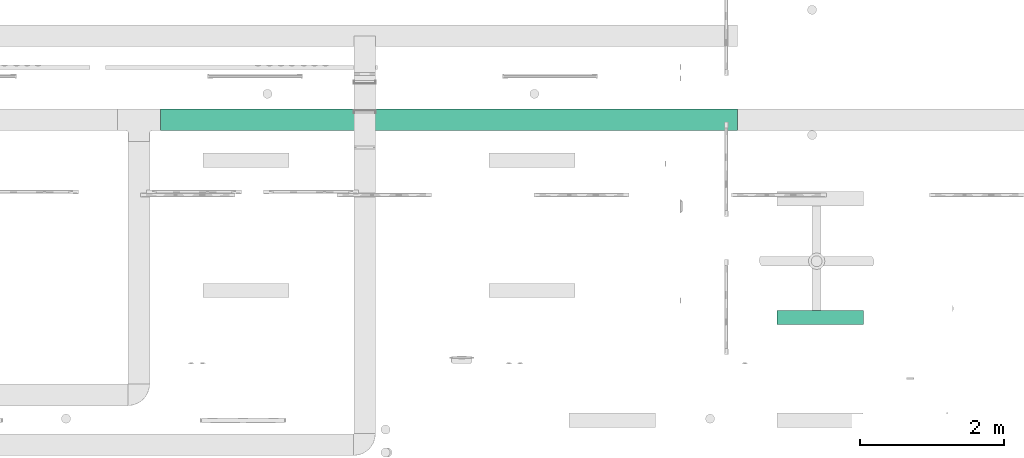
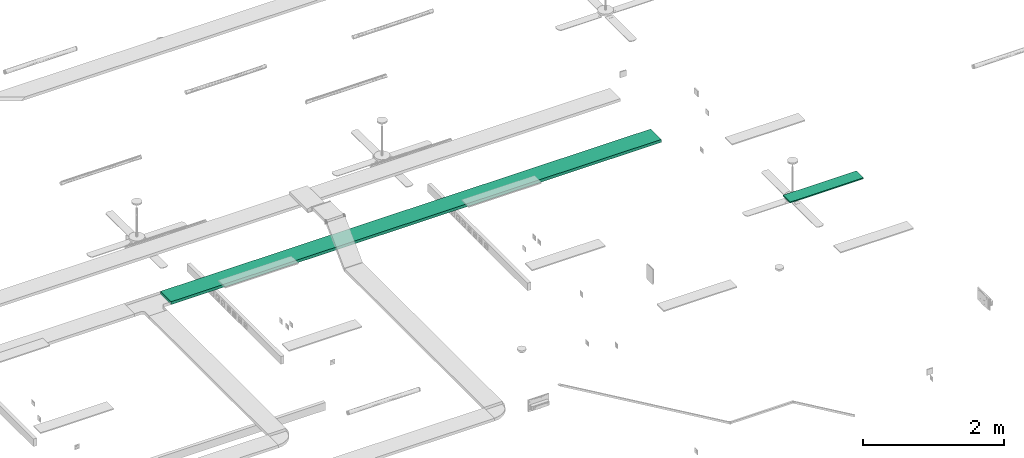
# One storey, part 22 of 153: 1 flow segment, 1 flow terminal.
"""IFC2X3 building model written with IfcOpenShell, lengths in metres."""

from ifc_helpers import new_model, entity, si_unit, converted_unit, derived_unit, direction, frame, origin, origin_2d_with_axis, place, context, subcontext, project, spatial, rectangle, extrude, source, transform, mapped, type_object, type_shapes, element, save


model = new_model("IFC2X3")

# Units and contexts
model_context = context("Model", 3, precision=1e-05, world=origin(), true_north=direction((6.12303176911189e-17, 1.0)))
body_context = subcontext(model_context, "Body", "Model", "MODEL_VIEW")
ifc_project = project(units=[si_unit("LENGTHUNIT", "METRE"), si_unit("AREAUNIT", "SQUARE_METRE"), si_unit("VOLUMEUNIT", "CUBIC_METRE"), converted_unit("PLANEANGLEUNIT", "DEGREE", entity("IfcRatioMeasure", 0.0174532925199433), si_unit("PLANEANGLEUNIT", "RADIAN"), dimensions=[0, 0, 0, 0, 0, 0, 0]), si_unit("MASSUNIT", "GRAM", prefix="KILO"), derived_unit("MASSDENSITYUNIT", [(si_unit("MASSUNIT", "GRAM", prefix="KILO"), 1), (si_unit("LENGTHUNIT", "METRE"), -3)]), si_unit("TIMEUNIT", "SECOND"), si_unit("FREQUENCYUNIT", "HERTZ"), si_unit("THERMODYNAMICTEMPERATUREUNIT", "DEGREE_CELSIUS"), derived_unit("THERMALTRANSMITTANCEUNIT", [(si_unit("MASSUNIT", "GRAM", prefix="KILO"), 1), (si_unit("THERMODYNAMICTEMPERATUREUNIT", "KELVIN"), -1), (si_unit("TIMEUNIT", "SECOND"), -3)]), derived_unit("VOLUMETRICFLOWRATEUNIT", [(si_unit("LENGTHUNIT", "METRE"), 3), (si_unit("TIMEUNIT", "SECOND"), -1)]), si_unit("ELECTRICCURRENTUNIT", "AMPERE"), si_unit("ELECTRICVOLTAGEUNIT", "VOLT"), si_unit("POWERUNIT", "WATT"), si_unit("FORCEUNIT", "NEWTON"), si_unit("ILLUMINANCEUNIT", "LUX"), si_unit("LUMINOUSFLUXUNIT", "LUMEN"), si_unit("LUMINOUSINTENSITYUNIT", "CANDELA"), derived_unit("USERDEFINED", [(si_unit("MASSUNIT", "GRAM", prefix="KILO"), -1), (si_unit("LENGTHUNIT", "METRE"), -2), (si_unit("TIMEUNIT", "SECOND"), 3), (si_unit("LUMINOUSFLUXUNIT", "LUMEN"), 1)]), derived_unit("LINEARVELOCITYUNIT", [(si_unit("LENGTHUNIT", "METRE"), 1), (si_unit("TIMEUNIT", "SECOND"), -1)]), si_unit("PRESSUREUNIT", "PASCAL"), derived_unit("USERDEFINED", [(si_unit("LENGTHUNIT", "METRE"), -2), (si_unit("MASSUNIT", "GRAM", prefix="KILO"), 1), (si_unit("TIMEUNIT", "SECOND"), -2)])], contexts=[model_context])

# Site, building, storey
site_placement = place(None, origin())
site = spatial("IfcSite", under=ifc_project, at=site_placement, Name="Default", CompositionType="ELEMENT")
building_placement = place(site_placement, origin())
building = spatial("IfcBuilding", under=site, at=building_placement, CompositionType="ELEMENT")
storey_placement = place(building_placement, frame((0.0, 0.0, -4.62)))
storey = spatial("IfcBuildingStorey", under=building, at=storey_placement, Name="S02", CompositionType="ELEMENT", Elevation=-4.62)

# Flow segment
cable_carrier_segment_type = type_object("IfcCableCarrierSegmentType", Name="Cable Tray with Fittings:Chemins de câbles en treillis_Chemins de câbles en treillis", PredefinedType="NOTDEFINED")
flow_segment_placement = place(storey_placement, origin())
element("IfcFlowSegment", 1, at=flow_segment_placement, inside=storey, type_object=cable_carrier_segment_type, Name="Cable Tray with Fittings:Chemins de câbles en treillis_Chemins de câbles en treillis", ObjectType="Cable Tray with Fittings:Chemins de câbles en treillis_Chemins de câbles en treillis", context=body_context, shape_type="SweptSolid", body=[
    extrude(rectangle(XDim=8.03159570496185, YDim=0.300000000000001, at=origin_2d_with_axis()), frame((58.3741372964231, -189.865826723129, 3.764)), (0.0, 0.0, 1.0), 0.05),
])

# Flow terminal
light_fixture_type = type_object("IfcLightFixtureType", Name="B_Réglete étanche", PredefinedType="NOTDEFINED")
shared_shape = source(origin(), body_context, "Body", "SweptSolid", [
    extrude(rectangle(XDim=0.199999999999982, YDim=1.2, at=origin_2d_with_axis()), frame((0.0, 0.0, 0.0), z_axis=(0.0, 0.0, 1.0), x_axis=(0.0, 1.0, 0.0)), (0.0, 0.0, 1.0), 0.02),
])
type_shapes(light_fixture_type, [shared_shape])
flow_terminal_placement = place(storey_placement, frame((63.5406087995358, -192.61867974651, 4.175), z_axis=(0.0, 0.0, -1.0), x_axis=(-1.0, 0.0, 0.0)))
element("IfcFlowTerminal", 2, at=flow_terminal_placement, inside=storey, type_object=light_fixture_type, Name="II_PREF_Type B Réglette étanche:B_Réglete étanche", ObjectType="II_PREF_Type B Réglette étanche:B_Réglete étanche", context=body_context, shape_type="MappedRepresentation", body=[
    mapped(shared_shape, transform((0.0, 0.0, 0.0), scale=1.0)),
])

save(model, "model.ifc")
